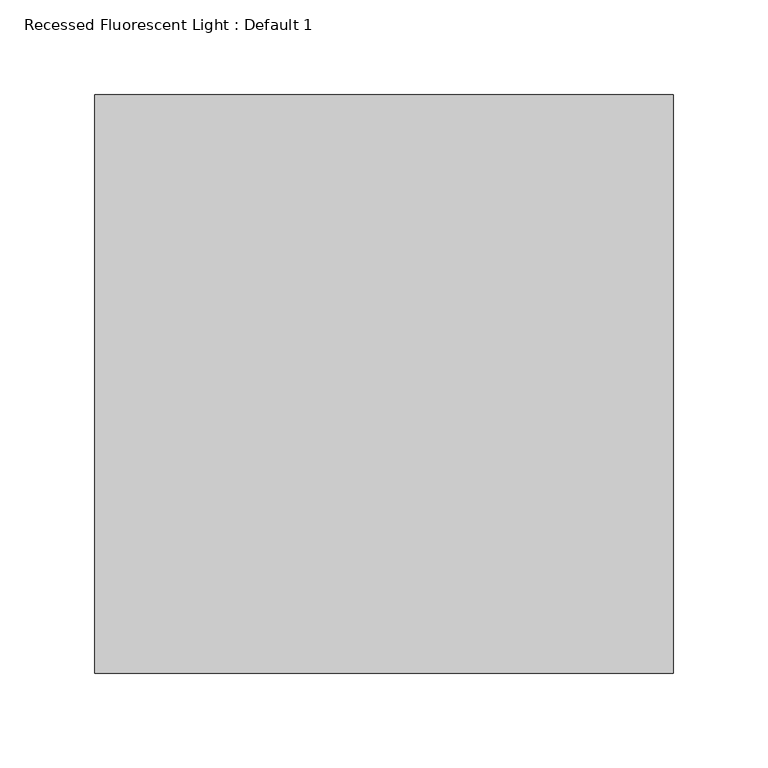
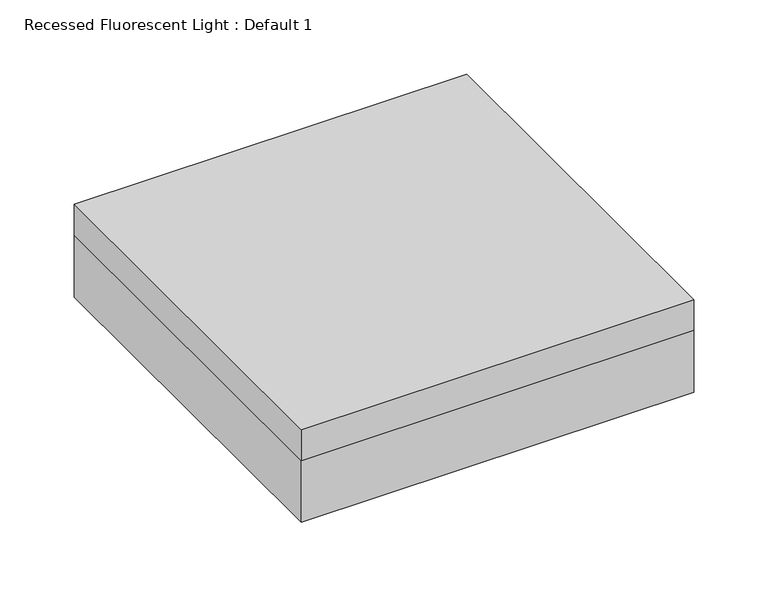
"""IFC4 building model written with IfcOpenShell, lengths in millimetres: light fixture geometry, Recessed Fluorescent Light : Default 1."""

from ifc_helpers import new_model, si_unit, frame, origin, place, context, project, spatial, polyline, outline, extrude, source, transform, mapped, element, save


def recessed_fluorescent_light_default_1_08a80f02(model_context):
    return source(origin(), model_context, "Body", "SweptSolid", [
        extrude(outline(polyline([(152.4, 152.4), (152.4, -152.4), (-152.4, -152.4), (-152.4, 152.4), (152.4, 152.4)])), frame((0.0, 0.0, 2489.2), z_axis=(0.0, 0.0, 1.0), x_axis=(1.0, 0.0, 0.0)), (0.0, 0.0, 1.0), 25.4),
        extrude(outline(polyline([(-152.4, -152.4), (-152.4, 152.4), (152.4, 152.4), (152.4, 0.0), (152.4, -152.4), (-152.4, -152.4)]), holes=[polyline([(127.0, 127.0), (-127.0, 127.0), (-127.0, -127.0), (127.0, -127.0), (127.0, 0.0), (127.0, 127.0)])]), frame((0.0, 0.0, 2438.4), z_axis=(0.0, 0.0, 1.0), x_axis=(1.0, 0.0, 0.0)), (0.0, 0.0, 1.0), 50.8),
    ])


if __name__ == "__main__":
    model = new_model("IFC4")
    model_context = context("Model", 3, world=origin())
    ifc_project = project(units=[si_unit("LENGTHUNIT", "METRE", prefix="MILLI")], contexts=[model_context])
    site = spatial("IfcSite", under=ifc_project)
    building = spatial("IfcBuilding", under=site)
    placement = place(None, origin())
    recessed_fluorescent_light_default_1_shape = recessed_fluorescent_light_default_1_08a80f02(model_context)
    element("IfcLightFixture", 1, ObjectType="Recessed Fluorescent Light : Default 1", at=placement, inside=building, context=model_context, shape_type="MappedRepresentation", body=[
        mapped(recessed_fluorescent_light_default_1_shape, transform((0.0, 0.0, 0.0), x_axis=(1.0, 0.0, 0.0), y_axis=(0.0, 1.0, 0.0), z_axis=(0.0, 0.0, 1.0))),
    ])
    save(model, "model.ifc")
